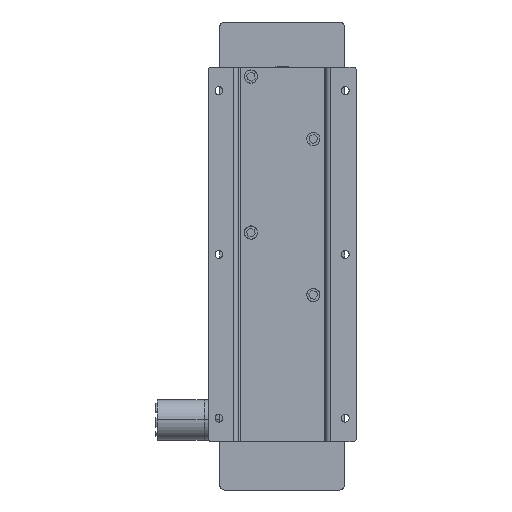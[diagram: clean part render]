
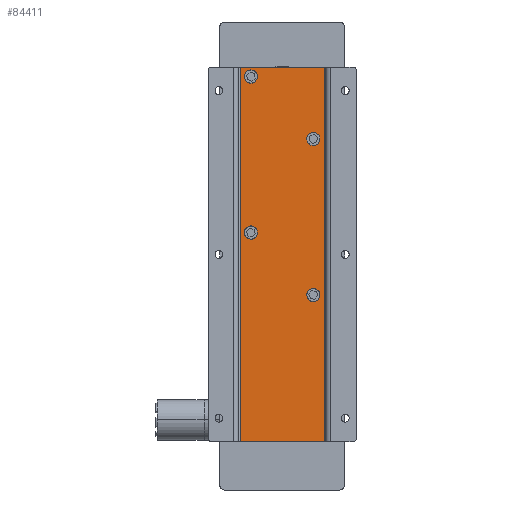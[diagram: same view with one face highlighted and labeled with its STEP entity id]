
A CAD part, left-side view. The second image highlights one B-rep face of the part: STEP entity #84411.
In plain terms, the highlighted planar face has unit normal (-1, 0, 0) as drawn and (0, 0, -1) by its records, which use the part's own axes.
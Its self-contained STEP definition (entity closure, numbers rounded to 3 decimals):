
#104 = ORIENTED_EDGE ( 'NONE', *, *, #74426, .T. ) ;
#228 = CIRCLE ( 'NONE', #17878, 3.25 ) ;
#527 = EDGE_CURVE ( 'NONE', #20341, #86088, #18576, .T. ) ;
#1818 = ORIENTED_EDGE ( 'NONE', *, *, #64326, .T. ) ;
#3057 = AXIS2_PLACEMENT_3D ( 'NONE', #52366, #37269, #67957 ) ;
#5811 = EDGE_CURVE ( 'NONE', #86088, #20341, #50021, .T. ) ;
#7660 = EDGE_LOOP ( 'NONE', ( #37155, #1818 ) ) ;
#7771 = AXIS2_PLACEMENT_3D ( 'NONE', #55262, #75924, #30170 ) ;
#8865 = DIRECTION ( 'NONE',  ( 1., 0., 0. ) ) ;
#9216 = CARTESIAN_POINT ( 'NONE',  ( 0., 0., -2. ) ) ;
#9562 = DIRECTION ( 'NONE',  ( 1., 0., 0. ) ) ;
#10797 = AXIS2_PLACEMENT_3D ( 'NONE', #89525, #82494, #65897 ) ;
#14662 = AXIS2_PLACEMENT_3D ( 'NONE', #97756, #98733, #14723 ) ;
#14723 = DIRECTION ( 'NONE',  ( 1., 0., 0. ) ) ;
#15428 = AXIS2_PLACEMENT_3D ( 'NONE', #86502, #94048, #9562 ) ;
#15608 = CIRCLE ( 'NONE', #10797, 3.25 ) ;
#16707 = AXIS2_PLACEMENT_3D ( 'NONE', #9216, #78129, #70568 ) ;
#16888 = CIRCLE ( 'NONE', #78023, 3.25 ) ;
#17234 = VERTEX_POINT ( 'NONE', #75456 ) ;
#17878 = AXIS2_PLACEMENT_3D ( 'NONE', #53354, #44350, #36312 ) ;
#18235 = VERTEX_POINT ( 'NONE', #60118 ) ;
#18576 = CIRCLE ( 'NONE', #61962, 3.25 ) ;
#20341 = VERTEX_POINT ( 'NONE', #46344 ) ;
#20749 = CIRCLE ( 'NONE', #3057, 3.25 ) ;
#22983 = LINE ( 'NONE', #60719, #78590 ) ;
#23313 = FACE_OUTER_BOUND ( 'NONE', #94819, .T. ) ;
#23780 = VECTOR ( 'NONE', #72736, 1000. ) ;
#24314 = PLANE ( 'NONE',  #16707 ) ;
#24795 = FACE_BOUND ( 'NONE', #42013, .T. ) ;
#24866 = ORIENTED_EDGE ( 'NONE', *, *, #79341, .T. ) ;
#25758 = EDGE_CURVE ( 'NONE', #33908, #18235, #80323, .T. ) ;
#26240 = ORIENTED_EDGE ( 'NONE', *, *, #25758, .F. ) ;
#26949 = EDGE_CURVE ( 'NONE', #17234, #35267, #20749, .T. ) ;
#30170 = DIRECTION ( 'NONE',  ( 1., 0., 0. ) ) ;
#30538 = CARTESIAN_POINT ( 'NONE',  ( 120., 27., -2. ) ) ;
#30555 = CARTESIAN_POINT ( 'NONE',  ( -120., -27., -2. ) ) ;
#32164 = EDGE_CURVE ( 'NONE', #89013, #67947, #16888, .T. ) ;
#33782 = ORIENTED_EDGE ( 'NONE', *, *, #49589, .F. ) ;
#33908 = VERTEX_POINT ( 'NONE', #30538 ) ;
#34007 = CARTESIAN_POINT ( 'NONE',  ( -14., 20., -2. ) ) ;
#35171 = VERTEX_POINT ( 'NONE', #56661 ) ;
#35267 = VERTEX_POINT ( 'NONE', #80297 ) ;
#36312 = DIRECTION ( 'NONE',  ( 1., 0., 0. ) ) ;
#37155 = ORIENTED_EDGE ( 'NONE', *, *, #45133, .T. ) ;
#37269 = DIRECTION ( 'NONE',  ( 0., 0., 1. ) ) ;
#37977 = EDGE_LOOP ( 'NONE', ( #49861, #81720 ) ) ;
#38288 = DIRECTION ( 'NONE',  ( 1., 0., 0. ) ) ;
#39947 = CIRCLE ( 'NONE', #7771, 3.25 ) ;
#41709 = ORIENTED_EDGE ( 'NONE', *, *, #74877, .F. ) ;
#42013 = EDGE_LOOP ( 'NONE', ( #104, #78116 ) ) ;
#42501 = EDGE_LOOP ( 'NONE', ( #53556, #24866 ) ) ;
#42591 = CARTESIAN_POINT ( 'NONE',  ( 120., -27., -2. ) ) ;
#44350 = DIRECTION ( 'NONE',  ( 0., 0., 1. ) ) ;
#45133 = EDGE_CURVE ( 'NONE', #35171, #63384, #15608, .T. ) ;
#45337 = DIRECTION ( 'NONE',  ( 0., 0., 1. ) ) ;
#46344 = CARTESIAN_POINT ( 'NONE',  ( -17.25, 20., -2. ) ) ;
#47935 = FACE_BOUND ( 'NONE', #42501, .T. ) ;
#49589 = EDGE_CURVE ( 'NONE', #86097, #33908, #51861, .T. ) ;
#49861 = ORIENTED_EDGE ( 'NONE', *, *, #5811, .T. ) ;
#50021 = CIRCLE ( 'NONE', #14662, 3.25 ) ;
#51861 = LINE ( 'NONE', #52857, #97876 ) ;
#52366 = CARTESIAN_POINT ( 'NONE',  ( 26., -20., -2. ) ) ;
#52536 = CARTESIAN_POINT ( 'NONE',  ( -77.25, -20., -2. ) ) ;
#52857 = CARTESIAN_POINT ( 'NONE',  ( 120., -27., -2. ) ) ;
#53354 = CARTESIAN_POINT ( 'NONE',  ( 26., -20., -2. ) ) ;
#53556 = ORIENTED_EDGE ( 'NONE', *, *, #26949, .T. ) ;
#54488 = FACE_BOUND ( 'NONE', #7660, .T. ) ;
#55262 = CARTESIAN_POINT ( 'NONE',  ( -114., 20., -2. ) ) ;
#55275 = CARTESIAN_POINT ( 'NONE',  ( -110.75, 20., -2. ) ) ;
#56661 = CARTESIAN_POINT ( 'NONE',  ( -70.75, -20., -2. ) ) ;
#57600 = CARTESIAN_POINT ( 'NONE',  ( -117.25, 20., -2. ) ) ;
#58824 = CIRCLE ( 'NONE', #15428, 3.25 ) ;
#59924 = DIRECTION ( 'NONE',  ( 0., 1., 0. ) ) ;
#59950 = CARTESIAN_POINT ( 'NONE',  ( -114., 20., -2. ) ) ;
#60118 = CARTESIAN_POINT ( 'NONE',  ( -120., 27., -2. ) ) ;
#60719 = CARTESIAN_POINT ( 'NONE',  ( 120., -27., -2. ) ) ;
#61219 = DIRECTION ( 'NONE',  ( 0., -1., 0. ) ) ;
#61962 = AXIS2_PLACEMENT_3D ( 'NONE', #34007, #87310, #94392 ) ;
#63384 = VERTEX_POINT ( 'NONE', #52536 ) ;
#64326 = EDGE_CURVE ( 'NONE', #63384, #35171, #58824, .T. ) ;
#65595 = VERTEX_POINT ( 'NONE', #70927 ) ;
#65897 = DIRECTION ( 'NONE',  ( 1., 0., 0. ) ) ;
#67947 = VERTEX_POINT ( 'NONE', #55275 ) ;
#67957 = DIRECTION ( 'NONE',  ( 1., 0., 0. ) ) ;
#68774 = LINE ( 'NONE', #30555, #94476 ) ;
#70568 = DIRECTION ( 'NONE',  ( 1., 0., 0. ) ) ;
#70927 = CARTESIAN_POINT ( 'NONE',  ( -120., -27., -2. ) ) ;
#72736 = DIRECTION ( 'NONE',  ( -1., 0., 0. ) ) ;
#74426 = EDGE_CURVE ( 'NONE', #67947, #89013, #39947, .T. ) ;
#74877 = EDGE_CURVE ( 'NONE', #65595, #86097, #22983, .T. ) ;
#75456 = CARTESIAN_POINT ( 'NONE',  ( 29.25, -20., -2. ) ) ;
#75924 = DIRECTION ( 'NONE',  ( 0., 0., 1. ) ) ;
#78023 = AXIS2_PLACEMENT_3D ( 'NONE', #59950, #45337, #38288 ) ;
#78116 = ORIENTED_EDGE ( 'NONE', *, *, #32164, .T. ) ;
#78129 = DIRECTION ( 'NONE',  ( 0., 0., 1. ) ) ;
#78590 = VECTOR ( 'NONE', #8865, 1000. ) ;
#79341 = EDGE_CURVE ( 'NONE', #35267, #17234, #228, .T. ) ;
#80297 = CARTESIAN_POINT ( 'NONE',  ( 22.75, -20., -2. ) ) ;
#80323 = LINE ( 'NONE', #86867, #23780 ) ;
#81720 = ORIENTED_EDGE ( 'NONE', *, *, #527, .T. ) ;
#82494 = DIRECTION ( 'NONE',  ( 0., 0., 1. ) ) ;
#84411 = ADVANCED_FACE ( 'NONE', ( #24795, #54488, #92218, #47935, #23313 ), #24314, .F. ) ;
#86088 = VERTEX_POINT ( 'NONE', #97958 ) ;
#86097 = VERTEX_POINT ( 'NONE', #42591 ) ;
#86502 = CARTESIAN_POINT ( 'NONE',  ( -74., -20., -2. ) ) ;
#86867 = CARTESIAN_POINT ( 'NONE',  ( 120., 27., -2. ) ) ;
#87310 = DIRECTION ( 'NONE',  ( 0., 0., 1. ) ) ;
#89013 = VERTEX_POINT ( 'NONE', #57600 ) ;
#89525 = CARTESIAN_POINT ( 'NONE',  ( -74., -20., -2. ) ) ;
#90196 = ORIENTED_EDGE ( 'NONE', *, *, #92583, .F. ) ;
#92218 = FACE_BOUND ( 'NONE', #37977, .T. ) ;
#92583 = EDGE_CURVE ( 'NONE', #18235, #65595, #68774, .T. ) ;
#94048 = DIRECTION ( 'NONE',  ( 0., 0., 1. ) ) ;
#94392 = DIRECTION ( 'NONE',  ( 1., 0., 0. ) ) ;
#94476 = VECTOR ( 'NONE', #61219, 1000. ) ;
#94819 = EDGE_LOOP ( 'NONE', ( #90196, #26240, #33782, #41709 ) ) ;
#97756 = CARTESIAN_POINT ( 'NONE',  ( -14., 20., -2. ) ) ;
#97876 = VECTOR ( 'NONE', #59924, 1000. ) ;
#97958 = CARTESIAN_POINT ( 'NONE',  ( -10.75, 20., -2. ) ) ;
#98733 = DIRECTION ( 'NONE',  ( 0., 0., 1. ) ) ;
